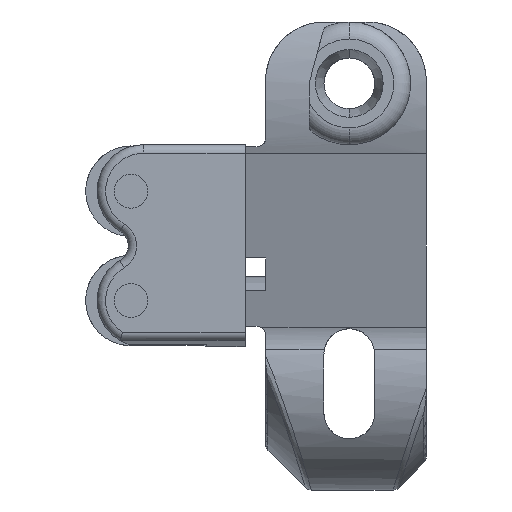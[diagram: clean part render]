
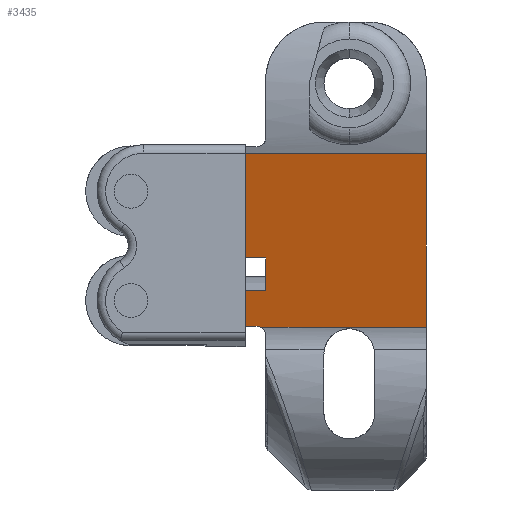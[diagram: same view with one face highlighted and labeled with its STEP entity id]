
A CAD part, left-side view. The second image highlights one B-rep face of the part: STEP entity #3435.
In plain terms, the highlighted planar face has unit normal (-0.962, 0, -0.274).
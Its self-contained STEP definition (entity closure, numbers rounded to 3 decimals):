
#693 = VECTOR ( 'NONE', #701, 1000. ) ;
#701 = DIRECTION ( 'NONE',  ( 0., -1., 0. ) ) ;
#702 = CARTESIAN_POINT ( 'NONE',  ( -14.618, -500000., -11.29 ) ) ;
#703 = LINE ( 'NONE', #702, #693 ) ;
#747 = CARTESIAN_POINT ( 'NONE',  ( -14.586, -1.858, -11.401 ) ) ;
#748 = CARTESIAN_POINT ( 'NONE',  ( -14.607, -1.716, -11.328 ) ) ;
#749 = CARTESIAN_POINT ( 'NONE',  ( -14.618, -1.56, -11.29 ) ) ;
#750 = CARTESIAN_POINT ( 'NONE',  ( -14.618, -1.4, -11.29 ) ) ;
#754 =( BOUNDED_CURVE ( )  B_SPLINE_CURVE ( 3, ( #750, #749, #748, #747 ),
 .UNSPECIFIED., .F., .T. ) 
 B_SPLINE_CURVE_WITH_KNOTS ( ( 4, 4 ),
 ( 3.142, 3.618 ),
 .UNSPECIFIED. ) 
 CURVE ( )  GEOMETRIC_REPRESENTATION_ITEM ( )  RATIONAL_B_SPLINE_CURVE ( ( 1., 0.981, 0.981, 1. ) ) 
 REPRESENTATION_ITEM ( '' )  );
#811 = DIRECTION ( 'NONE',  ( 0., 1., 0. ) ) ;
#812 = VECTOR ( 'NONE', #811, 1000. ) ;
#813 = CARTESIAN_POINT ( 'NONE',  ( -15.814, -500000., -7.084 ) ) ;
#847 = LINE ( 'NONE', #851, #902 ) ;
#850 = DIRECTION ( 'NONE',  ( 0.274, 0., -0.962 ) ) ;
#851 = CARTESIAN_POINT ( 'NONE',  ( -20.428, -2.4, 9.129 ) ) ;
#864 = CARTESIAN_POINT ( 'NONE',  ( -14.586, -1.858, -11.401 ) ) ;
#889 = LINE ( 'NONE', #813, #812 ) ;
#902 = VECTOR ( 'NONE', #850, 1000. ) ;
#955 = CARTESIAN_POINT ( 'NONE',  ( -14.586, -21.4, -11.401 ) ) ;
#959 = DIRECTION ( 'NONE',  ( 0.274, 0., -0.962 ) ) ;
#960 = VECTOR ( 'NONE', #959, 1000. ) ;
#961 = CARTESIAN_POINT ( 'NONE',  ( -20.428, -21.4, 9.129 ) ) ;
#962 = LINE ( 'NONE', #961, #960 ) ;
#1011 = CARTESIAN_POINT ( 'NONE',  ( -16.919, -2.4, -3.204 ) ) ;
#1026 = LINE ( 'NONE', #1093, #1092 ) ;
#1027 = DIRECTION ( 'NONE',  ( 0., 1., 0. ) ) ;
#1028 = VECTOR ( 'NONE', #1027, 1000. ) ;
#1037 = CARTESIAN_POINT ( 'NONE',  ( -16.919, -500000., -3.204 ) ) ;
#1038 = LINE ( 'NONE', #1037, #1028 ) ;
#1045 = DIRECTION ( 'NONE',  ( 0.274, 0., -0.962 ) ) ;
#1046 = DIRECTION ( 'NONE',  ( 0.962, 0., 0.274 ) ) ;
#1068 = PLANE ( 'NONE',  #1110 ) ;
#1091 = DIRECTION ( 'NONE',  ( 0., 1., 0. ) ) ;
#1092 = VECTOR ( 'NONE', #1091, 1000. ) ;
#1093 = CARTESIAN_POINT ( 'NONE',  ( -14.586, -500000., -11.401 ) ) ;
#1107 = CARTESIAN_POINT ( 'NONE',  ( -15.814, -500000., -7.084 ) ) ;
#1110 = AXIS2_PLACEMENT_3D ( 'NONE', #1107, #1046, #1045 ) ;
#1111 = CARTESIAN_POINT ( 'NONE',  ( -14.618, -1.4, -11.29 ) ) ;
#1137 = FACE_OUTER_BOUND ( 'NONE', #3442, .T. ) ;
#1148 = CARTESIAN_POINT ( 'NONE',  ( -15.814, -2.4, -7.084 ) ) ;
#2481 = VERTEX_POINT ( 'NONE', #5333 ) ;
#2644 = VERTEX_POINT ( 'NONE', #5611 ) ;
#2720 = EDGE_CURVE ( 'NONE', #2644, #2757, #5785, .T. ) ;
#2757 = VERTEX_POINT ( 'NONE', #5827 ) ;
#2799 = EDGE_CURVE ( 'NONE', #2481, #2919, #5914, .T. ) ;
#2812 = EDGE_CURVE ( 'NONE', #3072, #2481, #5911, .T. ) ;
#2919 = VERTEX_POINT ( 'NONE', #6217 ) ;
#3072 = VERTEX_POINT ( 'NONE', #6270 ) ;
#3202 = ORIENTED_EDGE ( 'NONE', *, *, #3294, .T. ) ;
#3216 = EDGE_CURVE ( 'NONE', #2757, #3434, #703, .T. ) ;
#3261 = ORIENTED_EDGE ( 'NONE', *, *, #3454, .F. ) ;
#3282 = EDGE_CURVE ( 'NONE', #3410, #3407, #847, .T. ) ;
#3294 = EDGE_CURVE ( 'NONE', #3407, #2644, #889, .T. ) ;
#3349 = ORIENTED_EDGE ( 'NONE', *, *, #3216, .T. ) ;
#3350 = EDGE_CURVE ( 'NONE', #3434, #3351, #754, .T. ) ;
#3351 = VERTEX_POINT ( 'NONE', #864 ) ;
#3355 = ORIENTED_EDGE ( 'NONE', *, *, #2812, .T. ) ;
#3356 = ORIENTED_EDGE ( 'NONE', *, *, #3350, .T. ) ;
#3407 = VERTEX_POINT ( 'NONE', #1148 ) ;
#3410 = VERTEX_POINT ( 'NONE', #1011 ) ;
#3434 = VERTEX_POINT ( 'NONE', #1111 ) ;
#3435 = ADVANCED_FACE ( 'NONE', ( #1137 ), #1068, .F. ) ;
#3436 = ORIENTED_EDGE ( 'NONE', *, *, #3445, .F. ) ;
#3442 = EDGE_LOOP ( 'NONE', ( #3349, #3356, #3436, #3261, #3355, #3446, #3449, #3450, #3202, #3447 ) ) ;
#3444 = EDGE_CURVE ( 'NONE', #3410, #2919, #1038, .T. ) ;
#3445 = EDGE_CURVE ( 'NONE', #3456, #3351, #1026, .T. ) ;
#3446 = ORIENTED_EDGE ( 'NONE', *, *, #2799, .T. ) ;
#3447 = ORIENTED_EDGE ( 'NONE', *, *, #2720, .T. ) ;
#3449 = ORIENTED_EDGE ( 'NONE', *, *, #3444, .F. ) ;
#3450 = ORIENTED_EDGE ( 'NONE', *, *, #3282, .T. ) ;
#3454 = EDGE_CURVE ( 'NONE', #3072, #3456, #962, .T. ) ;
#3456 = VERTEX_POINT ( 'NONE', #955 ) ;
#5333 = CARTESIAN_POINT ( 'NONE',  ( -20.428, 0., 9.129 ) ) ;
#5611 = CARTESIAN_POINT ( 'NONE',  ( -15.814, 0., -7.084 ) ) ;
#5769 = DIRECTION ( 'NONE',  ( 0.274, 0., -0.962 ) ) ;
#5781 = VECTOR ( 'NONE', #5769, 1000. ) ;
#5782 = CARTESIAN_POINT ( 'NONE',  ( -15.814, 0., -7.084 ) ) ;
#5785 = LINE ( 'NONE', #5782, #5781 ) ;
#5827 = CARTESIAN_POINT ( 'NONE',  ( -14.618, 0., -11.29 ) ) ;
#5881 = DIRECTION ( 'NONE',  ( 0.274, 0., -0.962 ) ) ;
#5882 = VECTOR ( 'NONE', #5881, 1000. ) ;
#5908 = DIRECTION ( 'NONE',  ( 0., 1., 0. ) ) ;
#5909 = VECTOR ( 'NONE', #5908, 1000. ) ;
#5910 = CARTESIAN_POINT ( 'NONE',  ( -20.428, -21.4, 9.129 ) ) ;
#5911 = LINE ( 'NONE', #5910, #5909 ) ;
#5913 = CARTESIAN_POINT ( 'NONE',  ( -20.428, 0., 9.129 ) ) ;
#5914 = LINE ( 'NONE', #5913, #5882 ) ;
#6217 = CARTESIAN_POINT ( 'NONE',  ( -16.919, 0., -3.204 ) ) ;
#6270 = CARTESIAN_POINT ( 'NONE',  ( -20.428, -21.4, 9.129 ) ) ;
